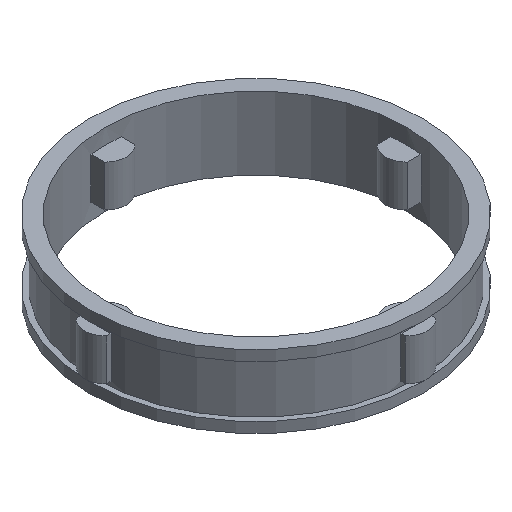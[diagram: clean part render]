
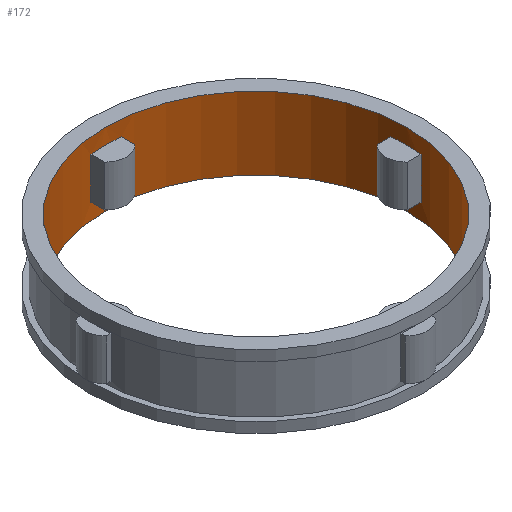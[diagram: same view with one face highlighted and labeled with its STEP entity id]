
A CAD part, isometric view. The second image highlights one B-rep face of the part: STEP entity #172.
In plain terms, the highlighted cylindrical face has radius 14.5 mm (diameter 29 mm), a full revolution.
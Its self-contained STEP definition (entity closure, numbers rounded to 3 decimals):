
#172=ADVANCED_FACE('',(#365,#366,#367,#368,#369,#370),#220,.F.);
#220=CYLINDRICAL_SURFACE('',#893,14.5);
#239=LINE('',#1247,#303);
#240=LINE('',#1251,#304);
#241=LINE('',#1255,#305);
#242=LINE('',#1259,#306);
#243=LINE('',#1263,#307);
#244=LINE('',#1267,#308);
#245=LINE('',#1268,#309);
#246=LINE('',#1273,#310);
#303=VECTOR('',#998,1.);
#304=VECTOR('',#1001,1.);
#305=VECTOR('',#1004,1.);
#306=VECTOR('',#1007,1.);
#307=VECTOR('',#1010,1.);
#308=VECTOR('',#1013,1.);
#309=VECTOR('',#1014,1.);
#310=VECTOR('',#1017,1.);
#365=FACE_BOUND('',#389,.T.);
#366=FACE_BOUND('',#390,.T.);
#367=FACE_BOUND('',#391,.T.);
#368=FACE_BOUND('',#392,.T.);
#369=FACE_BOUND('',#393,.T.);
#370=FACE_BOUND('',#394,.T.);
#389=EDGE_LOOP('',(#465));
#390=EDGE_LOOP('',(#466));
#391=EDGE_LOOP('',(#467,#468,#469,#470));
#392=EDGE_LOOP('',(#471,#472,#473,#474));
#393=EDGE_LOOP('',(#475,#476,#477,#478));
#394=EDGE_LOOP('',(#479,#480,#481,#482));
#465=ORIENTED_EDGE('',*,*,#745,.F.);
#466=ORIENTED_EDGE('',*,*,#746,.T.);
#467=ORIENTED_EDGE('',*,*,#747,.F.);
#468=ORIENTED_EDGE('',*,*,#748,.T.);
#469=ORIENTED_EDGE('',*,*,#749,.T.);
#470=ORIENTED_EDGE('',*,*,#750,.T.);
#471=ORIENTED_EDGE('',*,*,#751,.F.);
#472=ORIENTED_EDGE('',*,*,#752,.T.);
#473=ORIENTED_EDGE('',*,*,#753,.T.);
#474=ORIENTED_EDGE('',*,*,#754,.T.);
#475=ORIENTED_EDGE('',*,*,#755,.F.);
#476=ORIENTED_EDGE('',*,*,#756,.T.);
#477=ORIENTED_EDGE('',*,*,#757,.T.);
#478=ORIENTED_EDGE('',*,*,#758,.T.);
#479=ORIENTED_EDGE('',*,*,#759,.F.);
#480=ORIENTED_EDGE('',*,*,#760,.T.);
#481=ORIENTED_EDGE('',*,*,#761,.F.);
#482=ORIENTED_EDGE('',*,*,#762,.F.);
#673=VERTEX_POINT('',#1241);
#674=VERTEX_POINT('',#1243);
#675=VERTEX_POINT('',#1245);
#676=VERTEX_POINT('',#1246);
#677=VERTEX_POINT('',#1248);
#678=VERTEX_POINT('',#1250);
#679=VERTEX_POINT('',#1253);
#680=VERTEX_POINT('',#1254);
#681=VERTEX_POINT('',#1256);
#682=VERTEX_POINT('',#1258);
#683=VERTEX_POINT('',#1261);
#684=VERTEX_POINT('',#1262);
#685=VERTEX_POINT('',#1264);
#686=VERTEX_POINT('',#1266);
#687=VERTEX_POINT('',#1269);
#688=VERTEX_POINT('',#1270);
#689=VERTEX_POINT('',#1272);
#690=VERTEX_POINT('',#1274);
#745=EDGE_CURVE('',#673,#673,#841,.T.);
#746=EDGE_CURVE('',#674,#674,#842,.T.);
#747=EDGE_CURVE('',#675,#676,#843,.T.);
#748=EDGE_CURVE('',#675,#677,#239,.T.);
#749=EDGE_CURVE('',#677,#678,#844,.T.);
#750=EDGE_CURVE('',#678,#676,#240,.T.);
#751=EDGE_CURVE('',#679,#680,#845,.T.);
#752=EDGE_CURVE('',#679,#681,#241,.T.);
#753=EDGE_CURVE('',#681,#682,#846,.T.);
#754=EDGE_CURVE('',#682,#680,#242,.T.);
#755=EDGE_CURVE('',#683,#684,#847,.T.);
#756=EDGE_CURVE('',#683,#685,#243,.T.);
#757=EDGE_CURVE('',#685,#686,#848,.T.);
#758=EDGE_CURVE('',#686,#684,#244,.T.);
#759=EDGE_CURVE('',#687,#688,#245,.T.);
#760=EDGE_CURVE('',#687,#689,#849,.T.);
#761=EDGE_CURVE('',#690,#689,#246,.T.);
#762=EDGE_CURVE('',#688,#690,#850,.T.);
#841=CIRCLE('',#883,14.5);
#842=CIRCLE('',#884,14.5);
#843=CIRCLE('',#885,14.5);
#844=CIRCLE('',#886,14.5);
#845=CIRCLE('',#887,14.5);
#846=CIRCLE('',#888,14.5);
#847=CIRCLE('',#889,14.5);
#848=CIRCLE('',#890,14.5);
#849=CIRCLE('',#891,14.5);
#850=CIRCLE('',#892,14.5);
#883=AXIS2_PLACEMENT_3D('',#1240,#992,#993);
#884=AXIS2_PLACEMENT_3D('',#1242,#994,#995);
#885=AXIS2_PLACEMENT_3D('',#1244,#996,#997);
#886=AXIS2_PLACEMENT_3D('',#1249,#999,#1000);
#887=AXIS2_PLACEMENT_3D('',#1252,#1002,#1003);
#888=AXIS2_PLACEMENT_3D('',#1257,#1005,#1006);
#889=AXIS2_PLACEMENT_3D('',#1260,#1008,#1009);
#890=AXIS2_PLACEMENT_3D('',#1265,#1011,#1012);
#891=AXIS2_PLACEMENT_3D('',#1271,#1015,#1016);
#892=AXIS2_PLACEMENT_3D('',#1275,#1018,#1019);
#893=AXIS2_PLACEMENT_3D('',#1276,#1020,#1021);
#992=DIRECTION('',(0.,0.,1.));
#993=DIRECTION('',(1.,0.,0.));
#994=DIRECTION('',(0.,0.,1.));
#995=DIRECTION('',(1.,0.,0.));
#996=DIRECTION('',(0.,0.,1.));
#997=DIRECTION('',(1.,0.,0.));
#998=DIRECTION('',(0.,0.,-1.));
#999=DIRECTION('',(0.,0.,1.));
#1000=DIRECTION('',(1.,0.,0.));
#1001=DIRECTION('',(0.,0.,1.));
#1002=DIRECTION('',(0.,0.,1.));
#1003=DIRECTION('',(1.,0.,0.));
#1004=DIRECTION('',(0.,0.,-1.));
#1005=DIRECTION('',(0.,0.,1.));
#1006=DIRECTION('',(1.,0.,0.));
#1007=DIRECTION('',(0.,0.,1.));
#1008=DIRECTION('',(0.,0.,1.));
#1009=DIRECTION('',(1.,0.,0.));
#1010=DIRECTION('',(0.,0.,-1.));
#1011=DIRECTION('',(0.,0.,1.));
#1012=DIRECTION('',(1.,0.,0.));
#1013=DIRECTION('',(0.,0.,1.));
#1014=DIRECTION('',(0.,0.,-1.));
#1015=DIRECTION('',(0.,0.,-1.));
#1016=DIRECTION('',(-1.,0.,0.));
#1017=DIRECTION('',(0.,0.,1.));
#1018=DIRECTION('',(0.,0.,-1.));
#1019=DIRECTION('',(-1.,0.,0.));
#1020=DIRECTION('',(0.,0.,-1.));
#1021=DIRECTION('',(-1.,0.,0.));
#1240=CARTESIAN_POINT('',(0.,0.,0.));
#1241=CARTESIAN_POINT('',(14.5,0.,0.));
#1242=CARTESIAN_POINT('',(0.,0.,7.));
#1243=CARTESIAN_POINT('',(14.5,0.,7.));
#1244=CARTESIAN_POINT('',(0.,0.,5.5));
#1245=CARTESIAN_POINT('',(14.425,-1.471,5.5));
#1246=CARTESIAN_POINT('',(14.425,1.471,5.5));
#1247=CARTESIAN_POINT('',(14.425,-1.471,7.));
#1248=CARTESIAN_POINT('',(14.425,-1.471,1.5));
#1249=CARTESIAN_POINT('',(0.,0.,1.5));
#1250=CARTESIAN_POINT('',(14.425,1.471,1.5));
#1251=CARTESIAN_POINT('',(14.425,1.471,7.));
#1252=CARTESIAN_POINT('',(0.,0.,5.5));
#1253=CARTESIAN_POINT('',(1.471,14.425,5.5));
#1254=CARTESIAN_POINT('',(-1.471,14.425,5.5));
#1255=CARTESIAN_POINT('',(1.471,14.425,7.));
#1256=CARTESIAN_POINT('',(1.471,14.425,1.5));
#1257=CARTESIAN_POINT('',(0.,0.,1.5));
#1258=CARTESIAN_POINT('',(-1.471,14.425,1.5));
#1259=CARTESIAN_POINT('',(-1.471,14.425,7.));
#1260=CARTESIAN_POINT('',(0.,0.,5.5));
#1261=CARTESIAN_POINT('',(-14.425,1.471,5.5));
#1262=CARTESIAN_POINT('',(-14.425,-1.471,5.5));
#1263=CARTESIAN_POINT('',(-14.425,1.471,7.));
#1264=CARTESIAN_POINT('',(-14.425,1.471,1.5));
#1265=CARTESIAN_POINT('',(0.,0.,1.5));
#1266=CARTESIAN_POINT('',(-14.425,-1.471,1.5));
#1267=CARTESIAN_POINT('',(-14.425,-1.471,7.));
#1268=CARTESIAN_POINT('',(1.471,-14.425,7.));
#1269=CARTESIAN_POINT('',(1.471,-14.425,5.5));
#1270=CARTESIAN_POINT('',(1.471,-14.425,1.5));
#1271=CARTESIAN_POINT('',(0.,0.,5.5));
#1272=CARTESIAN_POINT('',(-1.471,-14.425,5.5));
#1273=CARTESIAN_POINT('',(-1.471,-14.425,7.));
#1274=CARTESIAN_POINT('',(-1.471,-14.425,1.5));
#1275=CARTESIAN_POINT('',(0.,0.,1.5));
#1276=CARTESIAN_POINT('',(0.,0.,7.));
